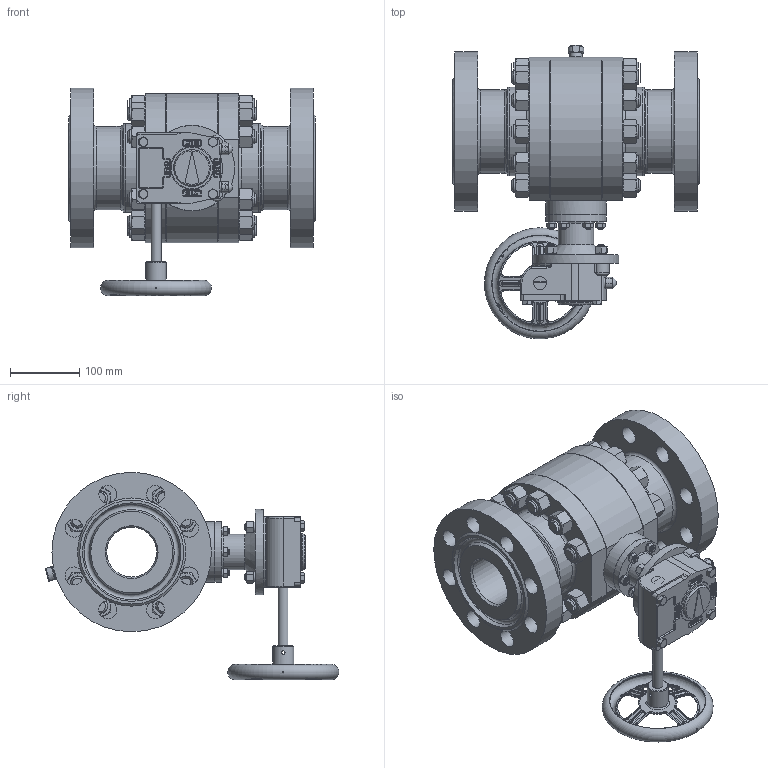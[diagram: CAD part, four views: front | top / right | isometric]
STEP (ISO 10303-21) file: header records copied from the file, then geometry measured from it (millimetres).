
FILE_DESCRIPTION(('STEP AP203'), '1');
FILE_NAME('ZARD 080.160.27.P.stp', '2013-12-06T11:23:14', ('Ñèçîâ À.Í.'), ('ÎÎÎ "ÈÊ Ýíåðïðåä-ßðäîñ"'), 'ASCON STEP Converter 1.3', 'Kompas 3D', '');
FILE_SCHEMA(('CONFIG_CONTROL_DESIGN','SUPPORT_RESOURCE_SCHEMA'));
Length unit declared in the file: millimetre
Products named in the file (1): 261
Bounding box: 356 x 423.24 x 299 mm (x, y, z)
Volume: 8010856.2 mm3; surface area: 1013757.9 mm2
Topology: 1 solids, 50 shells, 2556 faces, 6238 edges, 3894 vertices
Faces by surface type: plane 1173, cylinder 566, cone 399, bspline 273, torus 99, extrusion 27, sphere 19
Full cylindrical faces by diameter (mm): 2 x4, 3.242 x4, 4.917 x18, 5.1 x1, 6.647 x4, 8 x30, 8.376 x8, 9 x6, 10 x14, 10.4 x1, 11 x10, 14.422 x1, 15 x2, 16 x8, 16.5 x2, 17 x6, 17.33 x1, 18 x2, 20 x44, 22 x11, 25 x1, 26 x16, 27 x1, 28.7 x1, 29.8 x1, 30 x2, 31 x1, 39 x1, 39.6 x2, 40 x1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
Entity records: 156307 total; most frequent: CARTESIAN_POINT 100222, ORIENTED_EDGE 12364, DIRECTION 10414, EDGE_CURVE 6182, AXIS2_PLACEMENT_3D 3995, VERTEX_POINT 3895, EDGE_LOOP 2823, ADVANCED_FACE 2555
